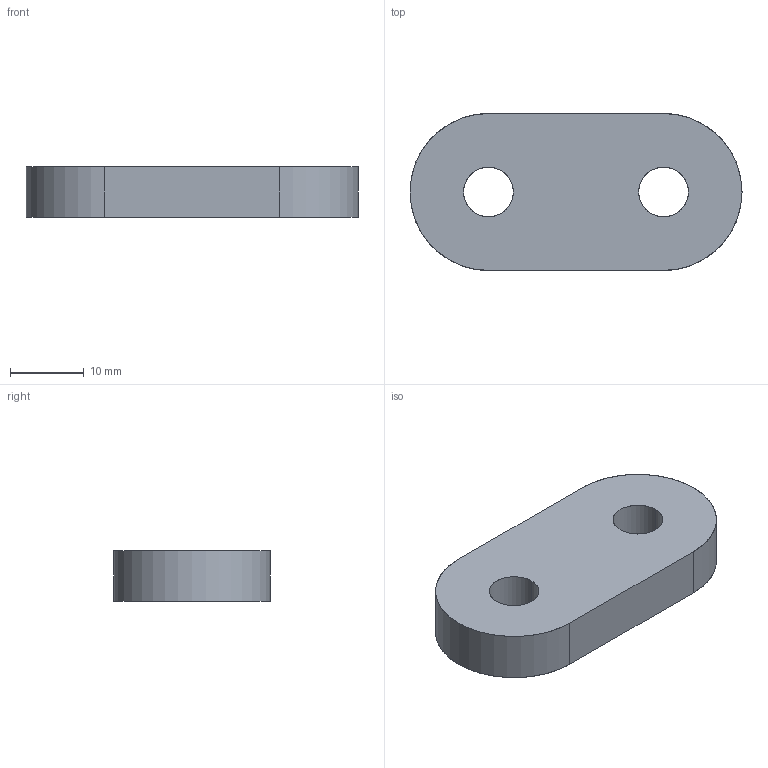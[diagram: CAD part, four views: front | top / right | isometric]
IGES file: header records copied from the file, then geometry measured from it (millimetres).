
Start section: SolidWorks IGES file using analytic representation for surfaces
Global section: file name: \\SERVER3\Design\_New Design Drive Folder List\_Design Vault\AAI\Modular Round Tube Connectors\Solidworks Models\STP Files\12202013\0.750 Inch Modular Connectors\DRP-002-0536-00.IGS; native system: SolidWorks 2013; preprocessor: SolidWorks 2013; author: tbraun; date: 131220.123834; units: inch
Bounding box: 45.15 x 21.34 x 6.86 mm (x, y, z)
Surface area: 2665.2 mm2 (no closed solid volume)
Topology: 0 solids, 0 shells, 11 faces, 232 edges, 232 vertices
Faces by surface type: revolution 7, bspline 4
